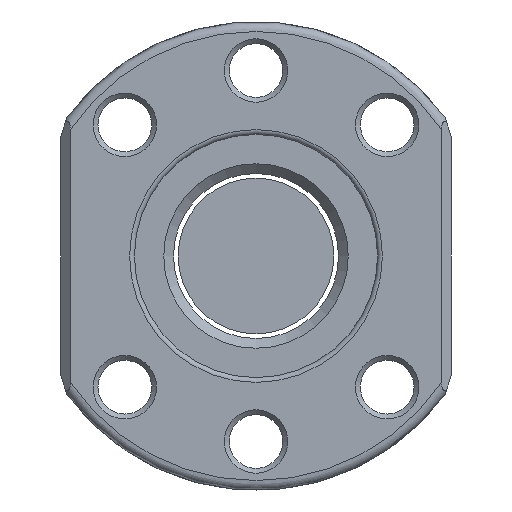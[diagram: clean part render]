
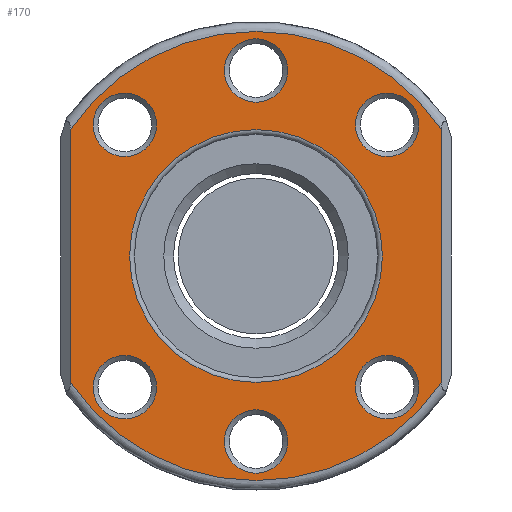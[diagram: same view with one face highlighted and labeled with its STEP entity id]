
A CAD part, front view. The second image highlights one B-rep face of the part: STEP entity #170.
In plain terms, the highlighted planar face has unit normal (0, -1, 0).
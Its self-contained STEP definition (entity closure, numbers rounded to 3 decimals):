
#64=LINE('',#1164,#88);
#65=LINE('',#1168,#89);
#88=VECTOR('',#944,1.);
#89=VECTOR('',#947,1.);
#132=PLANE('',#812);
#170=ADVANCED_FACE('',(#240,#241,#242,#243,#244,#245,#246,#247),#132,.T.);
#240=FACE_BOUND('',#321,.T.);
#241=FACE_BOUND('',#322,.T.);
#242=FACE_BOUND('',#323,.T.);
#243=FACE_BOUND('',#324,.T.);
#244=FACE_BOUND('',#325,.T.);
#245=FACE_BOUND('',#326,.T.);
#246=FACE_BOUND('',#327,.T.);
#247=FACE_BOUND('',#328,.T.);
#321=EDGE_LOOP('',(#423));
#322=EDGE_LOOP('',(#424));
#323=EDGE_LOOP('',(#425));
#324=EDGE_LOOP('',(#426));
#325=EDGE_LOOP('',(#427));
#326=EDGE_LOOP('',(#428));
#327=EDGE_LOOP('',(#429));
#328=EDGE_LOOP('',(#430,#431,#432,#433));
#423=ORIENTED_EDGE('',*,*,#666,.T.);
#424=ORIENTED_EDGE('',*,*,#667,.T.);
#425=ORIENTED_EDGE('',*,*,#668,.T.);
#426=ORIENTED_EDGE('',*,*,#669,.T.);
#427=ORIENTED_EDGE('',*,*,#670,.T.);
#428=ORIENTED_EDGE('',*,*,#671,.T.);
#429=ORIENTED_EDGE('',*,*,#672,.T.);
#430=ORIENTED_EDGE('',*,*,#673,.T.);
#431=ORIENTED_EDGE('',*,*,#674,.T.);
#432=ORIENTED_EDGE('',*,*,#675,.T.);
#433=ORIENTED_EDGE('',*,*,#676,.T.);
#595=VERTEX_POINT('',#1148);
#596=VERTEX_POINT('',#1150);
#597=VERTEX_POINT('',#1152);
#598=VERTEX_POINT('',#1154);
#599=VERTEX_POINT('',#1156);
#600=VERTEX_POINT('',#1158);
#601=VERTEX_POINT('',#1160);
#602=VERTEX_POINT('',#1162);
#603=VERTEX_POINT('',#1163);
#604=VERTEX_POINT('',#1165);
#605=VERTEX_POINT('',#1167);
#666=EDGE_CURVE('',#595,#595,#749,.T.);
#667=EDGE_CURVE('',#596,#596,#750,.T.);
#668=EDGE_CURVE('',#597,#597,#751,.T.);
#669=EDGE_CURVE('',#598,#598,#752,.T.);
#670=EDGE_CURVE('',#599,#599,#753,.T.);
#671=EDGE_CURVE('',#600,#600,#754,.T.);
#672=EDGE_CURVE('',#601,#601,#755,.T.);
#673=EDGE_CURVE('',#602,#603,#756,.T.);
#674=EDGE_CURVE('',#603,#604,#64,.T.);
#675=EDGE_CURVE('',#604,#605,#757,.T.);
#676=EDGE_CURVE('',#605,#602,#65,.T.);
#749=CIRCLE('',#803,3.25);
#750=CIRCLE('',#804,3.25);
#751=CIRCLE('',#805,3.25);
#752=CIRCLE('',#806,3.25);
#753=CIRCLE('',#807,3.25);
#754=CIRCLE('',#808,3.25);
#755=CIRCLE('',#809,12.95);
#756=CIRCLE('',#810,23.);
#757=CIRCLE('',#811,23.);
#803=AXIS2_PLACEMENT_3D('',#1147,#928,#929);
#804=AXIS2_PLACEMENT_3D('',#1149,#930,#931);
#805=AXIS2_PLACEMENT_3D('',#1151,#932,#933);
#806=AXIS2_PLACEMENT_3D('',#1153,#934,#935);
#807=AXIS2_PLACEMENT_3D('',#1155,#936,#937);
#808=AXIS2_PLACEMENT_3D('',#1157,#938,#939);
#809=AXIS2_PLACEMENT_3D('',#1159,#940,#941);
#810=AXIS2_PLACEMENT_3D('',#1161,#942,#943);
#811=AXIS2_PLACEMENT_3D('',#1166,#945,#946);
#812=AXIS2_PLACEMENT_3D('',#1169,#948,#949);
#928=DIRECTION('',(0.,1.,0.));
#929=DIRECTION('',(0.,0.,-1.));
#930=DIRECTION('',(0.,1.,0.));
#931=DIRECTION('',(0.,0.,-1.));
#932=DIRECTION('',(0.,1.,0.));
#933=DIRECTION('',(0.,0.,-1.));
#934=DIRECTION('',(0.,1.,0.));
#935=DIRECTION('',(0.,0.,-1.));
#936=DIRECTION('',(0.,1.,0.));
#937=DIRECTION('',(0.,0.,-1.));
#938=DIRECTION('',(0.,1.,0.));
#939=DIRECTION('',(0.,0.,-1.));
#940=DIRECTION('',(0.,1.,0.));
#941=DIRECTION('',(0.,0.,-1.));
#942=DIRECTION('',(0.,-1.,0.));
#943=DIRECTION('',(0.,0.,-1.));
#944=DIRECTION('',(0.,0.,-1.));
#945=DIRECTION('',(0.,-1.,0.));
#946=DIRECTION('',(0.,0.,-1.));
#947=DIRECTION('',(0.,0.,1.));
#948=DIRECTION('',(0.,-1.,0.));
#949=DIRECTION('',(0.,0.,-1.));
#1147=CARTESIAN_POINT('',(0.,0.,-19.));
#1148=CARTESIAN_POINT('',(0.,0.,-22.25));
#1149=CARTESIAN_POINT('',(-13.435,0.,13.435));
#1150=CARTESIAN_POINT('',(-13.435,0.,10.185));
#1151=CARTESIAN_POINT('',(13.435,0.,-13.435));
#1152=CARTESIAN_POINT('',(13.435,0.,-16.685));
#1153=CARTESIAN_POINT('',(-13.435,0.,-13.435));
#1154=CARTESIAN_POINT('',(-13.435,0.,-16.685));
#1155=CARTESIAN_POINT('',(0.,0.,19.));
#1156=CARTESIAN_POINT('',(0.,0.,15.75));
#1157=CARTESIAN_POINT('',(13.435,0.,13.435));
#1158=CARTESIAN_POINT('',(13.435,0.,10.185));
#1159=CARTESIAN_POINT('',(0.,0.,0.));
#1160=CARTESIAN_POINT('',(0.,0.,-12.95));
#1161=CARTESIAN_POINT('',(0.,0.,0.));
#1162=CARTESIAN_POINT('',(19.,0.,12.961));
#1163=CARTESIAN_POINT('',(-19.,0.,12.961));
#1164=CARTESIAN_POINT('',(-19.,0.,-11.358));
#1165=CARTESIAN_POINT('',(-19.,0.,-12.961));
#1166=CARTESIAN_POINT('',(0.,0.,0.));
#1167=CARTESIAN_POINT('',(19.,0.,-12.961));
#1168=CARTESIAN_POINT('',(19.,0.,11.358));
#1169=CARTESIAN_POINT('',(0.,0.,0.));
